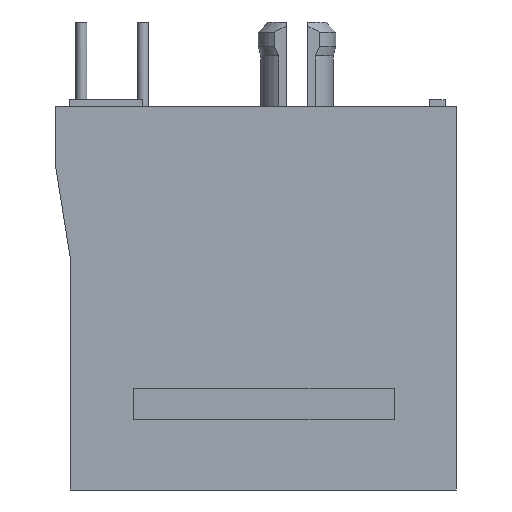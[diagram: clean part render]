
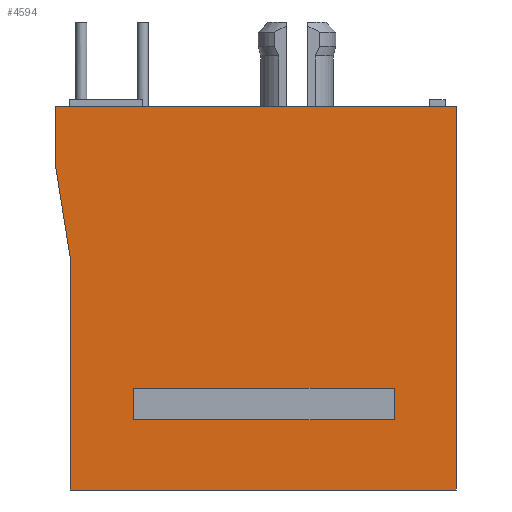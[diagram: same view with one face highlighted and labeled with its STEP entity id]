
A CAD part, left-side view. The second image highlights one B-rep face of the part: STEP entity #4594.
In plain terms, the highlighted planar face has unit normal (-1, 0, 0).
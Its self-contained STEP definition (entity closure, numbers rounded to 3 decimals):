
#2=DIRECTION('',(0.,-1.,0.));
#3=VECTOR('',#2,15.9);
#4=CARTESIAN_POINT('',(-5.715,7.95,-7.9));
#5=LINE('',#4,#3);
#106=DIRECTION('',(0.,0.,1.));
#107=VECTOR('',#106,1.3);
#108=CARTESIAN_POINT('',(-5.715,-5.4,-5.));
#109=LINE('',#108,#107);
#110=DIRECTION('',(0.,1.,0.));
#111=VECTOR('',#110,10.75);
#112=CARTESIAN_POINT('',(-5.715,-5.4,-3.7));
#113=LINE('',#112,#111);
#114=DIRECTION('',(0.,0.,-1.));
#115=VECTOR('',#114,1.3);
#116=CARTESIAN_POINT('',(-5.715,5.35,-3.7));
#117=LINE('',#116,#115);
#118=DIRECTION('',(0.,-1.,0.));
#119=VECTOR('',#118,10.75);
#120=CARTESIAN_POINT('',(-5.715,5.35,-5.));
#121=LINE('',#120,#119);
#122=DIRECTION('',(0.,0.,1.));
#123=VECTOR('',#122,9.5);
#124=CARTESIAN_POINT('',(-5.715,7.95,-7.9));
#125=LINE('',#124,#123);
#126=DIRECTION('',(0.,0.158,0.988));
#127=VECTOR('',#126,3.808);
#128=CARTESIAN_POINT('',(-5.715,7.95,1.6));
#129=LINE('',#128,#127);
#130=DIRECTION('',(0.,0.,1.));
#131=VECTOR('',#130,2.54);
#132=CARTESIAN_POINT('',(-5.715,8.55,5.36));
#133=LINE('',#132,#131);
#578=DIRECTION('',(0.,1.,0.));
#579=VECTOR('',#578,16.5);
#580=CARTESIAN_POINT('',(-5.715,-7.95,7.9));
#581=LINE('',#580,#579);
#1785=DIRECTION('',(0.,0.,1.));
#1786=VECTOR('',#1785,15.8);
#1787=CARTESIAN_POINT('',(-5.715,-7.95,-7.9));
#1788=LINE('',#1787,#1786);
#3496=CARTESIAN_POINT('',(-5.715,7.95,-7.9));
#3497=CARTESIAN_POINT('',(-5.715,-7.95,-7.9));
#3498=VERTEX_POINT('',#3496);
#3499=VERTEX_POINT('',#3497);
#3504=CARTESIAN_POINT('',(-5.715,-7.95,7.9));
#3506=VERTEX_POINT('',#3504);
#3516=CARTESIAN_POINT('',(-5.715,-5.4,-5.));
#3517=CARTESIAN_POINT('',(-5.715,-5.4,-3.7));
#3518=VERTEX_POINT('',#3516);
#3519=VERTEX_POINT('',#3517);
#3520=CARTESIAN_POINT('',(-5.715,5.35,-3.7));
#3521=VERTEX_POINT('',#3520);
#3522=CARTESIAN_POINT('',(-5.715,5.35,-5.));
#3523=VERTEX_POINT('',#3522);
#3540=CARTESIAN_POINT('',(-5.715,8.55,7.9));
#3541=VERTEX_POINT('',#3540);
#3546=CARTESIAN_POINT('',(-5.715,8.55,5.36));
#3547=VERTEX_POINT('',#3546);
#3548=CARTESIAN_POINT('',(-5.715,7.95,1.6));
#3549=VERTEX_POINT('',#3548);
#4566=CARTESIAN_POINT('',(-5.715,7.95,-7.9));
#4567=DIRECTION('',(-1.,0.,0.));
#4568=DIRECTION('',(0.,-1.,0.));
#4569=AXIS2_PLACEMENT_3D('',#4566,#4567,#4568);
#4570=PLANE('',#4569);
#4572=ORIENTED_EDGE('',*,*,#4571,.T.);
#4574=ORIENTED_EDGE('',*,*,#4573,.T.);
#4576=ORIENTED_EDGE('',*,*,#4575,.T.);
#4578=ORIENTED_EDGE('',*,*,#4577,.F.);
#4580=ORIENTED_EDGE('',*,*,#4579,.F.);
#4581=ORIENTED_EDGE('',*,*,#4505,.F.);
#4582=EDGE_LOOP('',(#4572,#4574,#4576,#4578,#4580,#4581));
#4583=FACE_OUTER_BOUND('',#4582,.F.);
#4585=ORIENTED_EDGE('',*,*,#4584,.T.);
#4587=ORIENTED_EDGE('',*,*,#4586,.T.);
#4589=ORIENTED_EDGE('',*,*,#4588,.T.);
#4591=ORIENTED_EDGE('',*,*,#4590,.T.);
#4592=EDGE_LOOP('',(#4585,#4587,#4589,#4591));
#4593=FACE_BOUND('',#4592,.F.);
#4505=EDGE_CURVE('',#3498,#3499,#5,.T.);
#4571=EDGE_CURVE('',#3498,#3549,#125,.T.);
#4573=EDGE_CURVE('',#3549,#3547,#129,.T.);
#4575=EDGE_CURVE('',#3547,#3541,#133,.T.);
#4577=EDGE_CURVE('',#3506,#3541,#581,.T.);
#4579=EDGE_CURVE('',#3499,#3506,#1788,.T.);
#4584=EDGE_CURVE('',#3518,#3519,#109,.T.);
#4586=EDGE_CURVE('',#3519,#3521,#113,.T.);
#4588=EDGE_CURVE('',#3521,#3523,#117,.T.);
#4590=EDGE_CURVE('',#3523,#3518,#121,.T.);
#4594=ADVANCED_FACE('',(#4583,#4593),#4570,.T.);
